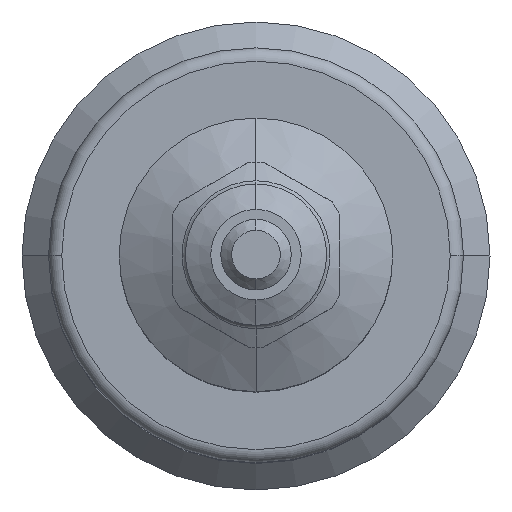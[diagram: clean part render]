
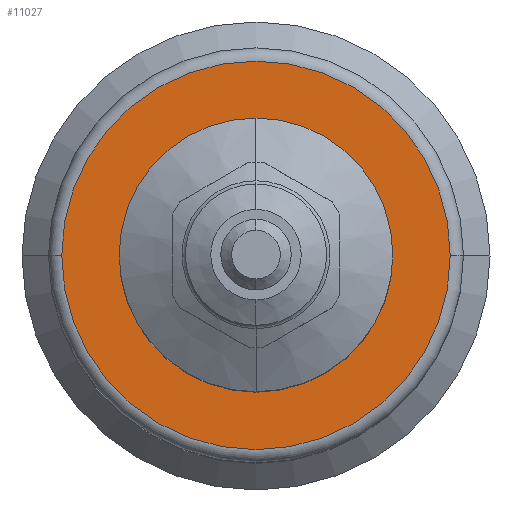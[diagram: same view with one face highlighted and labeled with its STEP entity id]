
A CAD part, top view. The second image highlights one B-rep face of the part: STEP entity #11027.
In plain terms, the highlighted planar face has unit normal (0, 0, 1).
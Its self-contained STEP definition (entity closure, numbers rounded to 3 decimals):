
#471 = ORIENTED_EDGE ( 'NONE', *, *, #1300, .F. ) ;
#493 = VERTEX_POINT ( 'NONE', #5680 ) ;
#998 = DIRECTION ( 'NONE',  ( 0., 0., -1. ) ) ;
#1300 = EDGE_CURVE ( 'NONE', #12721, #493, #9228, .T. ) ;
#1623 = FACE_BOUND ( 'NONE', #5697, .T. ) ;
#1821 = ORIENTED_EDGE ( 'NONE', *, *, #5405, .F. ) ;
#1868 = ORIENTED_EDGE ( 'NONE', *, *, #4100, .F. ) ;
#2070 = DIRECTION ( 'NONE',  ( 0., 0., -1. ) ) ;
#2416 = DIRECTION ( 'NONE',  ( 0., 0., 1. ) ) ;
#2975 = CARTESIAN_POINT ( 'NONE',  ( 0., 0., 130. ) ) ;
#3334 = CARTESIAN_POINT ( 'NONE',  ( 0., 0., 130. ) ) ;
#4000 = DIRECTION ( 'NONE',  ( 1., 0., 0. ) ) ;
#4100 = EDGE_CURVE ( 'NONE', #493, #12721, #10687, .T. ) ;
#4366 = DIRECTION ( 'NONE',  ( 1., 0., 0. ) ) ;
#4898 = CARTESIAN_POINT ( 'NONE',  ( 44., 0., 130. ) ) ;
#5372 = CIRCLE ( 'NONE', #12833, 31. ) ;
#5405 = EDGE_CURVE ( 'NONE', #6135, #8018, #5372, .T. ) ;
#5680 = CARTESIAN_POINT ( 'NONE',  ( -44., 0., 130. ) ) ;
#5697 = EDGE_LOOP ( 'NONE', ( #10773, #1821 ) ) ;
#6135 = VERTEX_POINT ( 'NONE', #12960 ) ;
#6307 = PLANE ( 'NONE',  #9414 ) ;
#6900 = EDGE_LOOP ( 'NONE', ( #471, #1868 ) ) ;
#7042 = FACE_OUTER_BOUND ( 'NONE', #6900, .T. ) ;
#7118 = CARTESIAN_POINT ( 'NONE',  ( 0., 0., 130. ) ) ;
#8018 = VERTEX_POINT ( 'NONE', #8572 ) ;
#8132 = DIRECTION ( 'NONE',  ( 1., 0., 0. ) ) ;
#8168 = CARTESIAN_POINT ( 'NONE',  ( 0., 0., 130. ) ) ;
#8526 = CARTESIAN_POINT ( 'NONE',  ( 0., 0., 130. ) ) ;
#8572 = CARTESIAN_POINT ( 'NONE',  ( -31., 0., 130. ) ) ;
#9211 = DIRECTION ( 'NONE',  ( 1., 0., 0. ) ) ;
#9228 = CIRCLE ( 'NONE', #12851, 44. ) ;
#9414 = AXIS2_PLACEMENT_3D ( 'NONE', #3334, #10472, #4366 ) ;
#9555 = DIRECTION ( 'NONE',  ( 1., 0., 0. ) ) ;
#10112 = DIRECTION ( 'NONE',  ( 0., 0., 1. ) ) ;
#10472 = DIRECTION ( 'NONE',  ( 0., 0., -1. ) ) ;
#10687 = CIRCLE ( 'NONE', #11471, 44. ) ;
#10773 = ORIENTED_EDGE ( 'NONE', *, *, #11971, .F. ) ;
#11027 = ADVANCED_FACE ( 'NONE', ( #1623, #7042 ), #6307, .F. ) ;
#11471 = AXIS2_PLACEMENT_3D ( 'NONE', #7118, #998, #8132 ) ;
#11971 = EDGE_CURVE ( 'NONE', #8018, #6135, #12465, .T. ) ;
#12206 = AXIS2_PLACEMENT_3D ( 'NONE', #2975, #10112, #4000 ) ;
#12465 = CIRCLE ( 'NONE', #12206, 31. ) ;
#12721 = VERTEX_POINT ( 'NONE', #4898 ) ;
#12833 = AXIS2_PLACEMENT_3D ( 'NONE', #8526, #2416, #9555 ) ;
#12851 = AXIS2_PLACEMENT_3D ( 'NONE', #8168, #2070, #9211 ) ;
#12960 = CARTESIAN_POINT ( 'NONE',  ( 31., 0., 130. ) ) ;
